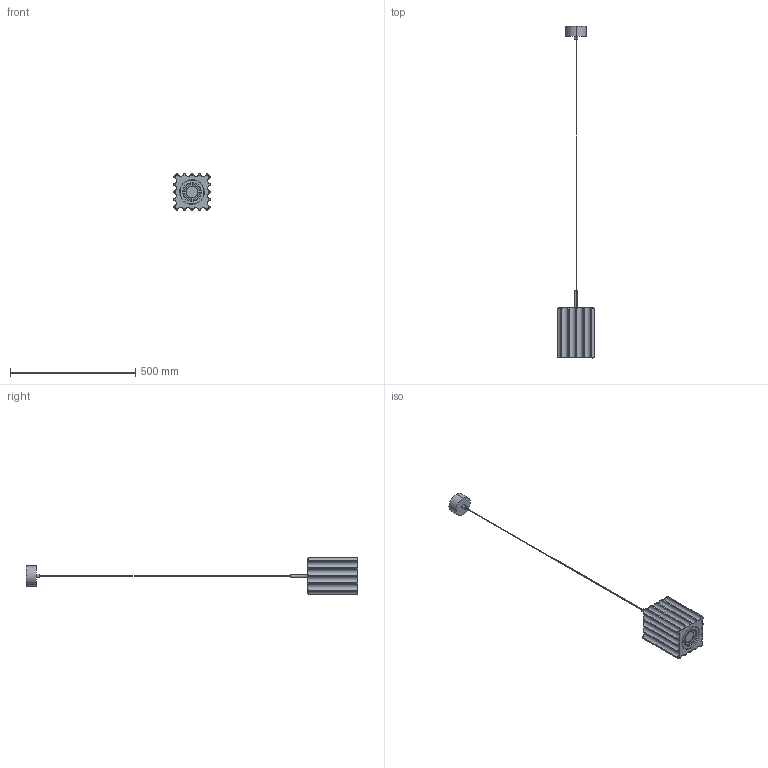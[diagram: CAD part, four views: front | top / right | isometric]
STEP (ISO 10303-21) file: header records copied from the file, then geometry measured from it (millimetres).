
FILE_DESCRIPTION (( 'STEP AP214' ), '1' );
FILE_NAME ('PIRE_C1090_L.STEP', '2025-03-03T15:58:17', ( '' ), ( '' ), 'SwSTEP 2.0', 'SolidWorks 2018', '' );
FILE_SCHEMA (( 'AUTOMOTIVE_DESIGN' ));
Length unit declared in the file: millimetre
Products named in the file (3): PIRE_C1090_L; MODUL2; PIRE FLORÓN
Assembly tree (2 placements, depth 2):
  PIRE_C1090_L
    PIRE FLORÓN
    MODUL2
Bounding box: 151 x 1325 x 151 mm (x, y, z)
Volume: 3286495.5 mm3; surface area: 314382.2 mm2
Topology: 9 solids, 9 shells, 135 faces, 340 edges, 226 vertices
Faces by surface type: cylinder 90, plane 41, torus 4
Entity records: 6144 total; most frequent: CARTESIAN_POINT 2778, ORIENTED_EDGE 680, DIRECTION 634, EDGE_CURVE 340, AXIS2_PLACEMENT_3D 242, VERTEX_POINT 226, LINE 150, VECTOR 150
